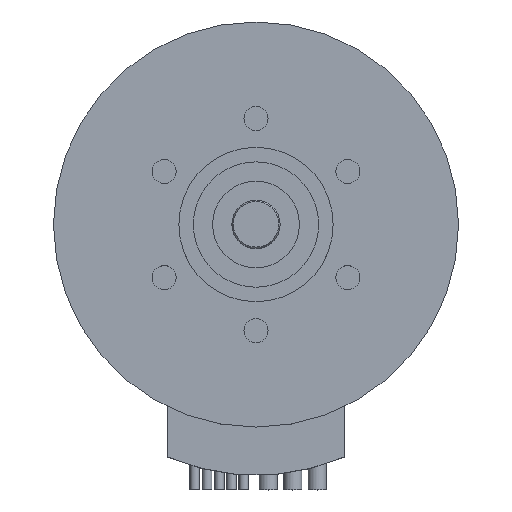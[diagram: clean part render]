
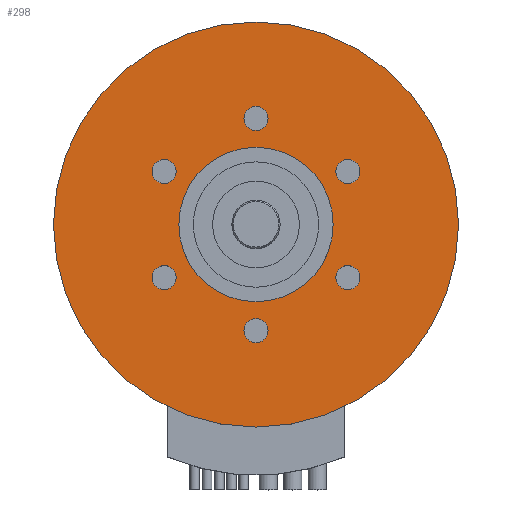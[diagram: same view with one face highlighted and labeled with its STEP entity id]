
A CAD part, top view. The second image highlights one B-rep face of the part: STEP entity #298.
In plain terms, the highlighted planar face has unit normal (0, 0, 1).
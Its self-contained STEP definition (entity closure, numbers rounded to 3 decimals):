
#89=FACE_BOUND('',#481,.T.);
#90=FACE_BOUND('',#482,.T.);
#91=FACE_BOUND('',#483,.T.);
#92=FACE_BOUND('',#484,.T.);
#93=FACE_BOUND('',#485,.T.);
#94=FACE_BOUND('',#486,.T.);
#95=FACE_BOUND('',#487,.T.);
#96=FACE_BOUND('',#488,.T.);
#214=CIRCLE('',#1334,1.25);
#215=CIRCLE('',#1335,1.25);
#216=CIRCLE('',#1336,1.25);
#217=CIRCLE('',#1337,1.25);
#218=CIRCLE('',#1338,1.25);
#219=CIRCLE('',#1339,1.25);
#220=CIRCLE('',#1340,8.);
#221=CIRCLE('',#1341,21.);
#298=ADVANCED_FACE('',(#89,#90,#91,#92,#93,#94,#95,#96),#386,.T.);
#386=PLANE('',#1342);
#481=EDGE_LOOP('',(#735));
#482=EDGE_LOOP('',(#736));
#483=EDGE_LOOP('',(#737));
#484=EDGE_LOOP('',(#738));
#485=EDGE_LOOP('',(#739));
#486=EDGE_LOOP('',(#740));
#487=EDGE_LOOP('',(#741));
#488=EDGE_LOOP('',(#742));
#735=ORIENTED_EDGE('',*,*,#1117,.T.);
#736=ORIENTED_EDGE('',*,*,#1118,.T.);
#737=ORIENTED_EDGE('',*,*,#1119,.T.);
#738=ORIENTED_EDGE('',*,*,#1120,.T.);
#739=ORIENTED_EDGE('',*,*,#1121,.T.);
#740=ORIENTED_EDGE('',*,*,#1122,.T.);
#741=ORIENTED_EDGE('',*,*,#1123,.F.);
#742=ORIENTED_EDGE('',*,*,#1124,.F.);
#979=VERTEX_POINT('',#2070);
#980=VERTEX_POINT('',#2072);
#981=VERTEX_POINT('',#2074);
#982=VERTEX_POINT('',#2076);
#983=VERTEX_POINT('',#2078);
#984=VERTEX_POINT('',#2080);
#985=VERTEX_POINT('',#2082);
#986=VERTEX_POINT('',#2084);
#1117=EDGE_CURVE('',#979,#979,#214,.T.);
#1118=EDGE_CURVE('',#980,#980,#215,.T.);
#1119=EDGE_CURVE('',#981,#981,#216,.T.);
#1120=EDGE_CURVE('',#982,#982,#217,.T.);
#1121=EDGE_CURVE('',#983,#983,#218,.T.);
#1122=EDGE_CURVE('',#984,#984,#219,.T.);
#1123=EDGE_CURVE('',#985,#985,#220,.T.);
#1124=EDGE_CURVE('',#986,#986,#221,.T.);
#1334=AXIS2_PLACEMENT_3D('',#2069,#1597,#1598);
#1335=AXIS2_PLACEMENT_3D('',#2071,#1599,#1600);
#1336=AXIS2_PLACEMENT_3D('',#2073,#1601,#1602);
#1337=AXIS2_PLACEMENT_3D('',#2075,#1603,#1604);
#1338=AXIS2_PLACEMENT_3D('',#2077,#1605,#1606);
#1339=AXIS2_PLACEMENT_3D('',#2079,#1607,#1608);
#1340=AXIS2_PLACEMENT_3D('',#2081,#1609,#1610);
#1341=AXIS2_PLACEMENT_3D('',#2083,#1611,#1612);
#1342=AXIS2_PLACEMENT_3D('',#2085,#1613,#1614);
#1597=DIRECTION('',(0.,0.,-1.));
#1598=DIRECTION('',(-1.,0.,0.));
#1599=DIRECTION('',(0.,0.,-1.));
#1600=DIRECTION('',(-1.,0.,0.));
#1601=DIRECTION('',(0.,0.,-1.));
#1602=DIRECTION('',(-1.,0.,0.));
#1603=DIRECTION('',(0.,0.,-1.));
#1604=DIRECTION('',(-1.,0.,0.));
#1605=DIRECTION('',(0.,0.,-1.));
#1606=DIRECTION('',(-1.,0.,0.));
#1607=DIRECTION('',(0.,0.,-1.));
#1608=DIRECTION('',(-1.,0.,0.));
#1609=DIRECTION('',(0.,0.,1.));
#1610=DIRECTION('',(1.,0.,0.));
#1611=DIRECTION('',(0.,0.,-1.));
#1612=DIRECTION('',(1.,0.,0.));
#1613=DIRECTION('',(0.,0.,1.));
#1614=DIRECTION('',(1.,0.,0.));
#2069=CARTESIAN_POINT('',(9.526,5.5,0.));
#2070=CARTESIAN_POINT('',(8.276,5.5,0.));
#2071=CARTESIAN_POINT('',(9.526,-5.5,0.));
#2072=CARTESIAN_POINT('',(8.276,-5.5,0.));
#2073=CARTESIAN_POINT('',(0.,-11.,0.));
#2074=CARTESIAN_POINT('',(-1.25,-11.,0.));
#2075=CARTESIAN_POINT('',(-9.526,-5.5,0.));
#2076=CARTESIAN_POINT('',(-10.776,-5.5,0.));
#2077=CARTESIAN_POINT('',(-9.526,5.5,0.));
#2078=CARTESIAN_POINT('',(-10.776,5.5,0.));
#2079=CARTESIAN_POINT('',(0.,11.,0.));
#2080=CARTESIAN_POINT('',(-1.25,11.,0.));
#2081=CARTESIAN_POINT('',(0.,0.,0.));
#2082=CARTESIAN_POINT('',(8.,0.,0.));
#2083=CARTESIAN_POINT('',(0.,0.,0.));
#2084=CARTESIAN_POINT('',(21.,0.,0.));
#2085=CARTESIAN_POINT('',(0.,0.,0.));
